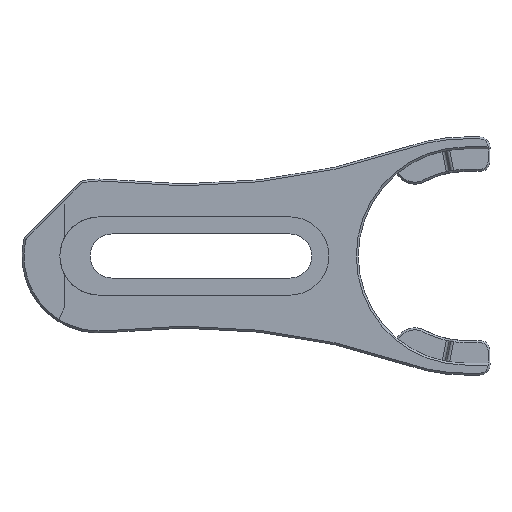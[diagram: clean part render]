
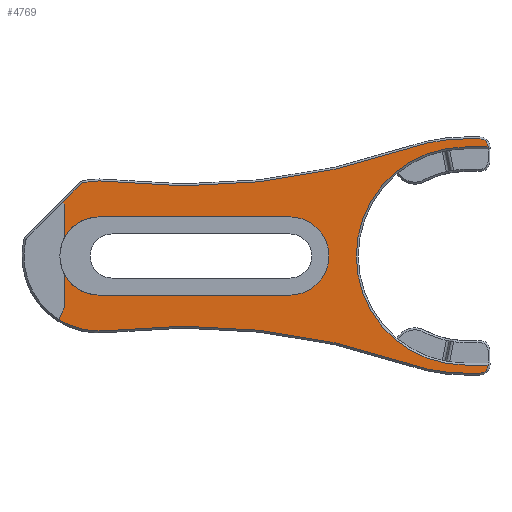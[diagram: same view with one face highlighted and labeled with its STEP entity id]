
A CAD part, front view. The second image highlights one B-rep face of the part: STEP entity #4769.
In plain terms, the highlighted planar face has unit normal (0, -1, 0).
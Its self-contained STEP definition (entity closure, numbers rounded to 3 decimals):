
#1=CARTESIAN_POINT('',(0.,0.,0.));
#2=DIRECTION('',(0.,-1.,0.));
#3=DIRECTION('',(-0.535,0.,-0.845));
#4=AXIS2_PLACEMENT_3D('',#1,#2,#3);
#6=DIRECTION('',(0.438,0.,0.899));
#7=VECTOR('',#6,1.964);
#8=CARTESIAN_POINT('',(-6.121,0.,
-9.665));
#9=LINE('',#8,#7);
#10=DIRECTION('',(0.,0.,1.));
#11=VECTOR('',#10,5.087);
#12=CARTESIAN_POINT('',(-5.26,0.,-7.9));
#13=LINE('',#12,#11);
#14=CARTESIAN_POINT('',(0.,0.,0.));
#15=DIRECTION('',(0.,-1.,0.));
#16=DIRECTION('',(-0.882,0.,-0.472));
#17=AXIS2_PLACEMENT_3D('',#14,#15,#16);
#19=DIRECTION('',(1.,0.,0.));
#20=VECTOR('',#19,29.07);
#21=CARTESIAN_POINT('',(0.,0.,-5.965));
#22=LINE('',#21,#20);
#23=CARTESIAN_POINT('',(29.07,0.,0.));
#24=DIRECTION('',(0.,-1.,0.));
#25=DIRECTION('',(0.,0.,-1.));
#26=AXIS2_PLACEMENT_3D('',#23,#24,#25);
#28=DIRECTION('',(-1.,0.,0.));
#29=VECTOR('',#28,29.07);
#30=CARTESIAN_POINT('',(29.07,0.,5.965));
#31=LINE('',#30,#29);
#32=CARTESIAN_POINT('',(0.,0.,0.));
#33=DIRECTION('',(0.,-1.,0.));
#34=DIRECTION('',(0.,0.,1.));
#35=AXIS2_PLACEMENT_3D('',#32,#33,#34);
#37=DIRECTION('',(0.,0.,1.));
#38=VECTOR('',#37,5.087);
#39=CARTESIAN_POINT('',(-5.26,0.,2.813));
#40=LINE('',#39,#38);
#41=DIRECTION('',(-0.707,0.,0.707));
#42=VECTOR('',#41,0.394);
#43=CARTESIAN_POINT('',(-5.26,0.,7.9));
#44=LINE('',#43,#42);
#45=DIRECTION('',(-0.707,0.,-0.707));
#46=VECTOR('',#45,3.994);
#47=CARTESIAN_POINT('',(-2.715,0.,
11.003));
#48=LINE('',#47,#46);
#49=CARTESIAN_POINT('',(-2.22,0.,10.508));
#50=DIRECTION('',(0.,-1.,0.));
#51=DIRECTION('',(-0.207,0.,0.978));
#52=AXIS2_PLACEMENT_3D('',#49,#50,#51);
#54=CARTESIAN_POINT('',(0.,0.,0.));
#55=DIRECTION('',(0.,-1.,0.));
#56=DIRECTION('',(0.114,0.,0.994));
#57=AXIS2_PLACEMENT_3D('',#54,#55,#56);
#59=CARTESIAN_POINT('',(13.141,0.,114.943));
#60=DIRECTION('',(0.,1.,0.));
#61=DIRECTION('',(0.326,0.,-0.945));
#62=AXIS2_PLACEMENT_3D('',#59,#60,#61);
#64=CARTESIAN_POINT('',(55.82,0.,-8.785));
#65=DIRECTION('',(0.,-1.,0.));
#66=DIRECTION('',(0.,0.,1.));
#67=AXIS2_PLACEMENT_3D('',#64,#65,#66);
#69=DIRECTION('',(-1.,0.,0.));
#70=VECTOR('',#69,2.206);
#71=CARTESIAN_POINT('',(58.026,0.,17.845));
#72=LINE('',#71,#70);
#73=CARTESIAN_POINT('',(58.026,0.,16.596));
#74=DIRECTION('',(0.,-1.,0.));
#75=DIRECTION('',(1.,0.,0.02));
#76=AXIS2_PLACEMENT_3D('',#73,#74,#75);
#78=DIRECTION('',(1.,0.,0.));
#79=VECTOR('',#78,3.456);
#80=CARTESIAN_POINT('',(55.82,0.,16.62));
#81=LINE('',#80,#79);
#82=CARTESIAN_POINT('',(55.82,0.,0.));
#83=DIRECTION('',(0.,1.,0.));
#84=DIRECTION('',(0.,0.,-1.));
#85=AXIS2_PLACEMENT_3D('',#82,#83,#84);
#87=DIRECTION('',(-1.,0.,0.));
#88=VECTOR('',#87,3.456);
#89=CARTESIAN_POINT('',(59.276,0.,-16.62));
#90=LINE('',#89,#88);
#91=CARTESIAN_POINT('',(58.026,0.,-16.596));
#92=DIRECTION('',(0.,-1.,0.));
#93=DIRECTION('',(0.,0.,-1.));
#94=AXIS2_PLACEMENT_3D('',#91,#92,#93);
#96=DIRECTION('',(1.,0.,0.));
#97=VECTOR('',#96,2.206);
#98=CARTESIAN_POINT('',(55.82,0.,
-17.845));
#99=LINE('',#98,#97);
#100=CARTESIAN_POINT('',(55.82,0.,8.785));
#101=DIRECTION('',(0.,-1.,0.));
#102=DIRECTION('',(-0.326,0.,-0.945));
#103=AXIS2_PLACEMENT_3D('',#100,#101,#102);
#105=CARTESIAN_POINT('',(13.141,0.,-114.943));
#106=DIRECTION('',(0.,1.,0.));
#107=DIRECTION('',(-0.114,0.,0.994));
#108=AXIS2_PLACEMENT_3D('',#105,#106,#107);
#3655=CARTESIAN_POINT('',(29.07,0.,-5.965));
#3656=CARTESIAN_POINT('',(29.07,0.,5.965));
#3657=VERTEX_POINT('',#3655);
#3658=VERTEX_POINT('',#3656);
#3659=CARTESIAN_POINT('',(0.,0.,5.965));
#3660=VERTEX_POINT('',#3659);
#3661=CARTESIAN_POINT('',(0.,0.,-5.965));
#3662=VERTEX_POINT('',#3661);
#3679=CARTESIAN_POINT('',(-5.26,0.,-7.9));
#3680=CARTESIAN_POINT('',(-5.26,0.,-2.813));
#3681=VERTEX_POINT('',#3679);
#3682=VERTEX_POINT('',#3680);
#3683=CARTESIAN_POINT('',(-5.26,0.,2.813));
#3684=CARTESIAN_POINT('',(-5.26,0.,7.9));
#3685=VERTEX_POINT('',#3683);
#3686=VERTEX_POINT('',#3684);
#3809=CARTESIAN_POINT('',(-6.121,0.,-9.665));
#3810=CARTESIAN_POINT('',(1.299,0.,-11.366));
#3811=VERTEX_POINT('',#3809);
#3812=VERTEX_POINT('',#3810);
#3817=CARTESIAN_POINT('',(47.136,0.,-16.39));
#3818=VERTEX_POINT('',#3817);
#3821=CARTESIAN_POINT('',(55.82,0.,-17.846));
#3822=VERTEX_POINT('',#3821);
#3825=CARTESIAN_POINT('',(58.026,0.,
-17.845));
#3826=VERTEX_POINT('',#3825);
#3831=CARTESIAN_POINT('',(59.276,0.,-16.62));
#3832=VERTEX_POINT('',#3831);
#3839=CARTESIAN_POINT('',(55.82,0.,
16.62));
#3840=CARTESIAN_POINT('',(59.276,0.,16.62));
#3841=VERTEX_POINT('',#3839);
#3842=VERTEX_POINT('',#3840);
#3843=CARTESIAN_POINT('',(55.82,0.,-16.62));
#3844=VERTEX_POINT('',#3843);
#3851=CARTESIAN_POINT('',(-2.715,0.,
11.003));
#3852=CARTESIAN_POINT('',(-5.539,0.,8.179));
#3853=VERTEX_POINT('',#3851);
#3854=VERTEX_POINT('',#3852);
#3855=CARTESIAN_POINT('',(-2.365,0.,11.193));
#3856=VERTEX_POINT('',#3855);
#3859=CARTESIAN_POINT('',(1.299,0.,11.366));
#3860=VERTEX_POINT('',#3859);
#3863=CARTESIAN_POINT('',(47.136,0.,16.39));
#3864=VERTEX_POINT('',#3863);
#3867=CARTESIAN_POINT('',(55.82,0.,17.846));
#3868=VERTEX_POINT('',#3867);
#3871=CARTESIAN_POINT('',(58.026,0.,
17.845));
#3872=VERTEX_POINT('',#3871);
#4714=CARTESIAN_POINT('',(0.,0.,0.));
#4715=DIRECTION('',(0.,1.,0.));
#4716=DIRECTION('',(1.,0.,0.));
#4717=AXIS2_PLACEMENT_3D('',#4714,#4715,#4716);
#4718=PLANE('',#4717);
#4720=ORIENTED_EDGE('',*,*,#4719,.F.);
#4722=ORIENTED_EDGE('',*,*,#4721,.T.);
#4724=ORIENTED_EDGE('',*,*,#4723,.T.);
#4726=ORIENTED_EDGE('',*,*,#4725,.T.);
#4728=ORIENTED_EDGE('',*,*,#4727,.T.);
#4730=ORIENTED_EDGE('',*,*,#4729,.T.);
#4732=ORIENTED_EDGE('',*,*,#4731,.T.);
#4734=ORIENTED_EDGE('',*,*,#4733,.T.);
#4736=ORIENTED_EDGE('',*,*,#4735,.T.);
#4738=ORIENTED_EDGE('',*,*,#4737,.T.);
#4740=ORIENTED_EDGE('',*,*,#4739,.F.);
#4742=ORIENTED_EDGE('',*,*,#4741,.F.);
#4744=ORIENTED_EDGE('',*,*,#4743,.F.);
#4746=ORIENTED_EDGE('',*,*,#4745,.F.);
#4748=ORIENTED_EDGE('',*,*,#4747,.F.);
#4750=ORIENTED_EDGE('',*,*,#4749,.F.);
#4752=ORIENTED_EDGE('',*,*,#4751,.F.);
#4754=ORIENTED_EDGE('',*,*,#4753,.F.);
#4756=ORIENTED_EDGE('',*,*,#4755,.F.);
#4758=ORIENTED_EDGE('',*,*,#4757,.F.);
#4760=ORIENTED_EDGE('',*,*,#4759,.F.);
#4762=ORIENTED_EDGE('',*,*,#4761,.F.);
#4764=ORIENTED_EDGE('',*,*,#4763,.F.);
#4766=ORIENTED_EDGE('',*,*,#4765,.F.);
#4767=EDGE_LOOP('',(#4720,#4722,#4724,#4726,#4728,#4730,#4732,#4734,#4736,#4738,
#4740,#4742,#4744,#4746,#4748,#4750,#4752,#4754,#4756,#4758,#4760,#4762,#4764,
#4766));
#4768=FACE_OUTER_BOUND('',#4767,.F.);
#4769=ADVANCED_FACE('',(#4768),#4718,.F.);
#5=CIRCLE('',#4,11.44);
#18=CIRCLE('',#17,5.965);
#27=CIRCLE('',#26,5.965);
#36=CIRCLE('',#35,5.965);
#53=CIRCLE('',#52,0.7);
#58=CIRCLE('',#57,11.44);
#63=CIRCLE('',#62,104.252);
#68=CIRCLE('',#67,26.63);
#77=CIRCLE('',#76,1.25);
#86=CIRCLE('',#85,16.62);
#95=CIRCLE('',#94,1.25);
#104=CIRCLE('',#103,26.63);
#109=CIRCLE('',#108,104.252);
#4719=EDGE_CURVE('',#3811,#3812,#5,.T.);
#4721=EDGE_CURVE('',#3811,#3681,#9,.T.);
#4723=EDGE_CURVE('',#3681,#3682,#13,.T.);
#4725=EDGE_CURVE('',#3682,#3662,#18,.T.);
#4727=EDGE_CURVE('',#3662,#3657,#22,.T.);
#4729=EDGE_CURVE('',#3657,#3658,#27,.T.);
#4731=EDGE_CURVE('',#3658,#3660,#31,.T.);
#4733=EDGE_CURVE('',#3660,#3685,#36,.T.);
#4735=EDGE_CURVE('',#3685,#3686,#40,.T.);
#4737=EDGE_CURVE('',#3686,#3854,#44,.T.);
#4739=EDGE_CURVE('',#3853,#3854,#48,.T.);
#4741=EDGE_CURVE('',#3856,#3853,#53,.T.);
#4743=EDGE_CURVE('',#3860,#3856,#58,.T.);
#4745=EDGE_CURVE('',#3864,#3860,#63,.T.);
#4747=EDGE_CURVE('',#3868,#3864,#68,.T.);
#4749=EDGE_CURVE('',#3872,#3868,#72,.T.);
#4751=EDGE_CURVE('',#3842,#3872,#77,.T.);
#4753=EDGE_CURVE('',#3841,#3842,#81,.T.);
#4755=EDGE_CURVE('',#3844,#3841,#86,.T.);
#4757=EDGE_CURVE('',#3832,#3844,#90,.T.);
#4759=EDGE_CURVE('',#3826,#3832,#95,.T.);
#4761=EDGE_CURVE('',#3822,#3826,#99,.T.);
#4763=EDGE_CURVE('',#3818,#3822,#104,.T.);
#4765=EDGE_CURVE('',#3812,#3818,#109,.T.);
